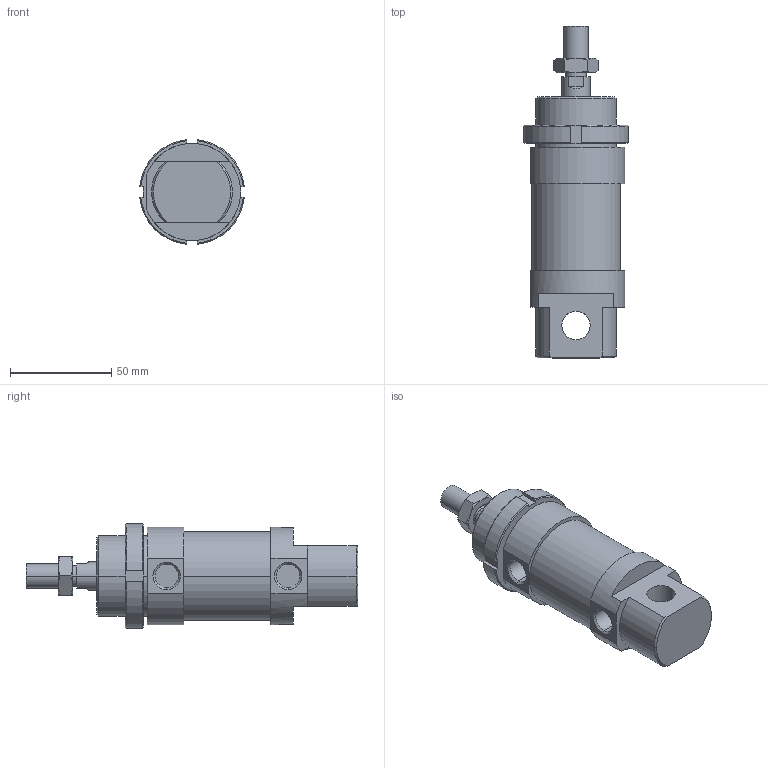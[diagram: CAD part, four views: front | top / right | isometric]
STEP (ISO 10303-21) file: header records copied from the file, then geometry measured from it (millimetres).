
FILE_DESCRIPTION((''),'2;1');
FILE_NAME('I:\DOC-EDP\Lib-3d\1200\CILINDRI\1260\1260_40_0000.stp','2003-04-02T15:07:24',('maffial1'),(''),'Autodesk Inventor (R) 6.0','Autodesk Inventor (R) 6.0','');
FILE_SCHEMA(('AUTOMOTIVE_DESIGN { 1 0 10303 214 1 1 1 1 }'));
Length unit declared in the file: millimetre
Products named in the file (5): 1260_40_0000; S1260_40_0; 1200_40_05; 1200_40_06; C1260_40_0
Assembly tree (4 placements, depth 2):
  1260_40_0000
    S1260_40_0
    1200_40_05
    1200_40_06
    C1260_40_0
Bounding box: 51.76 x 164 x 51.76 mm (x, y, z)
Volume: 191274.3 mm3; surface area: 34266.3 mm2
Topology: 4 solids, 4 shells, 122 faces, 286 edges, 180 vertices
Faces by surface type: plane 44, cone 32, cylinder 26, bspline 20
Entity records: 3831 total; most frequent: CARTESIAN_POINT 997, DIRECTION 582, ORIENTED_EDGE 572, EDGE_CURVE 286, AXIS2_PLACEMENT_3D 229, VERTEX_POINT 180, EDGE_LOOP 136, VECTOR 124
